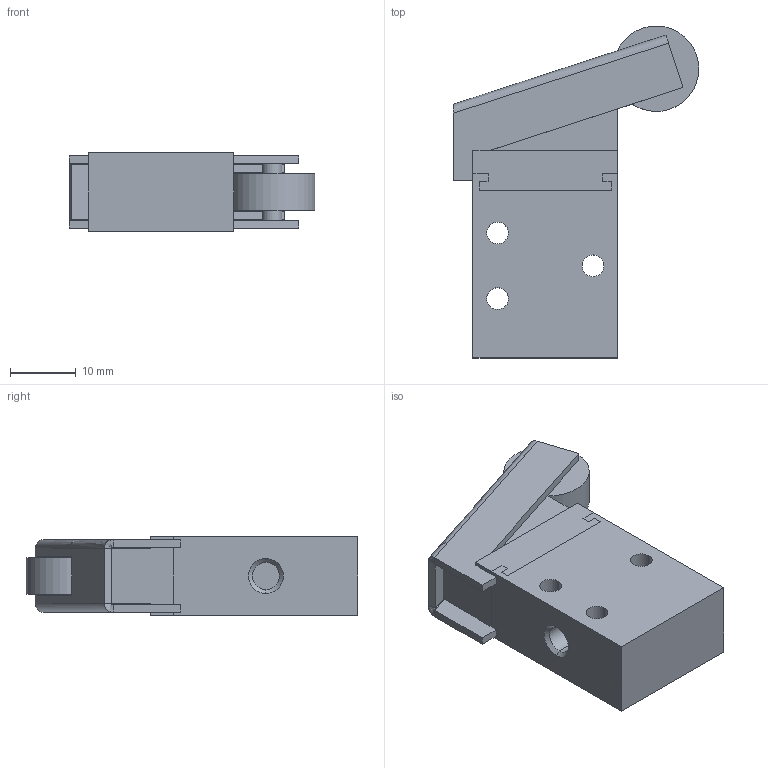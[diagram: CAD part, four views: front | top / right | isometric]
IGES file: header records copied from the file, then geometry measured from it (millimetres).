
Global section: file name: No Iges File Name specified; native system: AutoDesk Inventor R12.0; preprocessor: AutoDesk Inventor Iges Exporter R12.0; date: 20080225.141116; units: millimetre
Bounding box: 37.35 x 50.46 x 12 mm (x, y, z)
Volume: 10856.3 mm3; surface area: 6820.7 mm2
Topology: 3 solids, 3 shells, 93 faces, 234 edges, 152 vertices
Faces by surface type: plane 48, bspline 26, revolution 10, cylinder 9
